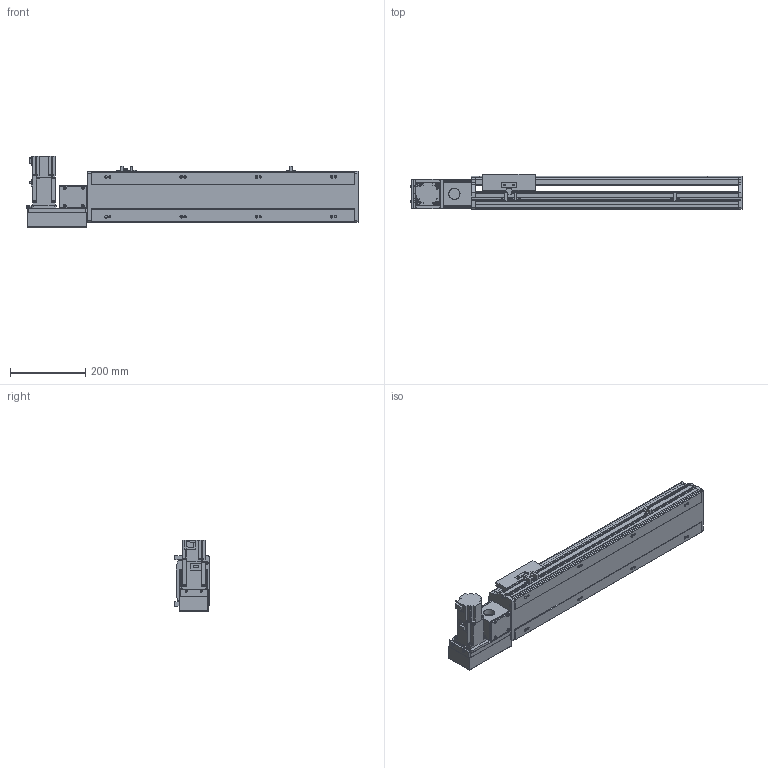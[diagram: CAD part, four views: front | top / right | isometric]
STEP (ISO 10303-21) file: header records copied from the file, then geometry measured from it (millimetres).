
FILE_DESCRIPTION( ( 'STEP AP214' ), '1' );
FILE_NAME( 'x:/temp/worker_6/temp/exporttempdir_5396_6_hbBuY/format_0/PBS140S-P40-S450-L-T40-C1-N(0).stp', '2022-06-09T00:00:38', ( 'License CC BY-ND 4.0' ), ( 'CADENAS' ), ' ', 'PARTsolutions', ' ' );
FILE_SCHEMA( ( 'AUTOMOTIVE_DESIGN { 1 0 10303 214 1 1 1 1 }' ) );
Length unit declared in the file: millimetre
Products named in the file (7): PBS140S-P40-S450-L-T40-C1-N(0); _PBS140S-S450()_body; _PBS140ST-L_motors; _T40-p1; _PBS140S_sliser; _PBS140S_plant; _PBS140S_sensor
Assembly tree (8 placements, depth 2):
  PBS140S-P40-S450-L-T40-C1-N(0)
    _PBS140S-S450()_body
    _PBS140ST-L_motors
    _T40-p1
    _PBS140S_sliser
    _PBS140S_plant
    _PBS140S_sensor  x3
Bounding box: 883 x 93 x 189.7 mm (x, y, z)
Volume: 4536422.3 mm3; surface area: 808640.8 mm2
Topology: 8 solids, 8 shells, 1035 faces, 2751 edges, 1801 vertices
Faces by surface type: plane 678, cylinder 313, cone 34, sphere 8, torus 2
Full cylindrical faces by diameter (mm): 3.242 x4, 4 x2, 4.134 x4, 4.4 x8, 4.5 x2, 4.8 x4, 4.917 x16, 5.5 x7, 6 x2, 7 x10, 7.5 x8, 8 x12, 8.5 x4, 10.5 x8, 14 x1, 30 x2, 50 x2
Entity records: 37768 total; most frequent: CARTESIAN_POINT 5734, DIRECTION 5068, ORIENTED_EDGE 4822, EDGE_CURVE 2411, AXIS2_PLACEMENT_3D 1739, VERTEX_POINT 1657, LINE 1590, VECTOR 1590
